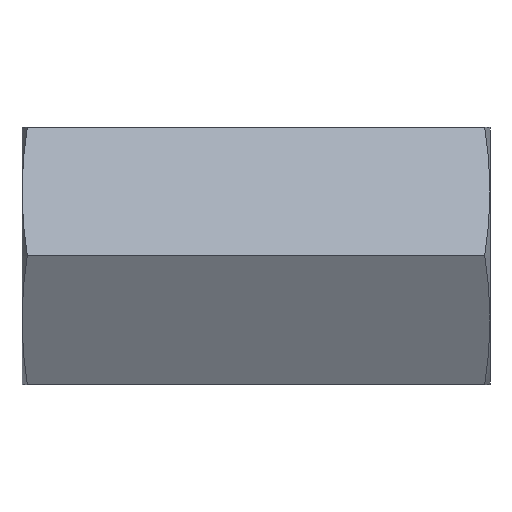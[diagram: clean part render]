
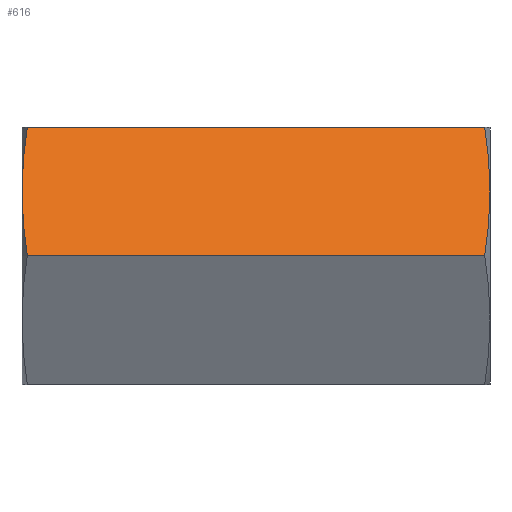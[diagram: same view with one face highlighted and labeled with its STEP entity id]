
A CAD part, top view. The second image highlights one B-rep face of the part: STEP entity #616.
In plain terms, the highlighted planar face has unit normal (0, 0.5, 0.866).
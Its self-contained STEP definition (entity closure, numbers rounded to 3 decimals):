
#616 = ADVANCED_FACE( '', ( #1343 ), #1344, .F. );
#1343 = FACE_OUTER_BOUND( '', #12328, .T. );
#1344 = PLANE( '', #12329 );
#12328 = EDGE_LOOP( '', ( #20280, #20281, #20282, #20283, #20284, #20285, #20286, #20287, #20288, #20289 ) );
#12329 = AXIS2_PLACEMENT_3D( '', #20290, #20291, #20292 );
#20280 = ORIENTED_EDGE( '', *, *, #21595, .F. );
#20281 = ORIENTED_EDGE( '', *, *, #21881, .T. );
#20282 = ORIENTED_EDGE( '', *, *, #21468, .T. );
#20283 = ORIENTED_EDGE( '', *, *, #21863, .T. );
#20284 = ORIENTED_EDGE( '', *, *, #21692, .T. );
#20285 = ORIENTED_EDGE( '', *, *, #21821, .T. );
#20286 = ORIENTED_EDGE( '', *, *, #21882, .F. );
#20287 = ORIENTED_EDGE( '', *, *, #21883, .F. );
#20288 = ORIENTED_EDGE( '', *, *, #21624, .F. );
#20289 = ORIENTED_EDGE( '', *, *, #21866, .F. );
#20290 = CARTESIAN_POINT( '', ( 74.955, 20.638, 11.915 ) );
#20291 = DIRECTION( '', ( 0., -0.5, -0.866 ) );
#20292 = DIRECTION( '', ( 0., 0.866, -0.5 ) );
#21468 = EDGE_CURVE( '', #22615, #22612, #22616, .T. );
#21595 = EDGE_CURVE( '', #22806, #22808, #22809, .T. );
#21624 = EDGE_CURVE( '', #22849, #22850, #22851, .T. );
#21692 = EDGE_CURVE( '', #22956, #22957, #22958, .T. );
#21821 = EDGE_CURVE( '', #22957, #23135, #23136, .T. );
#21863 = EDGE_CURVE( '', #22612, #22956, #23186, .T. );
#21866 = EDGE_CURVE( '', #22808, #22849, #23189, .T. );
#21881 = EDGE_CURVE( '', #22806, #22615, #23210, .T. );
#21882 = EDGE_CURVE( '', #22166, #23135, #23211, .T. );
#21883 = EDGE_CURVE( '', #22850, #22166, #23212, .T. );
#22166 = VERTEX_POINT( '', #27917 );
#22612 = VERTEX_POINT( '', #31193 );
#22615 = VERTEX_POINT( '', #31199 );
#22616 = B_SPLINE_CURVE_WITH_KNOTS( '', 3, ( #31200, #31201, #31202, #31203 ), .UNSPECIFIED., .F., .F., ( 4, 4 ), ( 0.011, 0.012 ), .UNSPECIFIED. );
#22806 = VERTEX_POINT( '', #34006 );
#22808 = VERTEX_POINT( '', #34018 );
#22809 = LINE( '', #34019, #34020 );
#22849 = VERTEX_POINT( '', #34136 );
#22850 = VERTEX_POINT( '', #34137 );
#22851 = B_SPLINE_CURVE_WITH_KNOTS( '', 3, ( #34138, #34139, #34140, #34141 ), .UNSPECIFIED., .F., .F., ( 4, 4 ), ( 0.011, 0.012 ), .UNSPECIFIED. );
#22956 = VERTEX_POINT( '', #38755 );
#22957 = VERTEX_POINT( '', #38756 );
#22958 = B_SPLINE_CURVE_WITH_KNOTS( '', 3, ( #38757, #38758, #38759, #38760, #38761, #38762, #38763, #38764, #38765, #38766, #38767 ), .UNSPECIFIED., .F., .F., ( 4, 1, 1, 1, 2, 2, 4 ), ( 0.013, 0.014, 0.016, 0.017, 0.018, 0.021, 0.024 ), .UNSPECIFIED. );
#23135 = VERTEX_POINT( '', #39173 );
#23136 = LINE( '', #39174, #39175 );
#23186 = B_SPLINE_CURVE_WITH_KNOTS( '', 3, ( #41444, #41445, #41446, #41447 ), .UNSPECIFIED., .F., .F., ( 4, 4 ), ( 0.012, 0.013 ), .UNSPECIFIED. );
#23189 = B_SPLINE_CURVE_WITH_KNOTS( '', 3, ( #41450, #41451, #41452, #41453, #41454, #41455, #41456, #41457, #41458, #41459, #41460 ), .UNSPECIFIED., .F., .F., ( 4, 2, 2, 1, 1, 1, 4 ), ( 0., 0.003, 0.005, 0.007, 0.008, 0.009, 0.011 ), .UNSPECIFIED. );
#23210 = B_SPLINE_CURVE_WITH_KNOTS( '', 3, ( #41630, #41631, #41632, #41633, #41634, #41635, #41636, #41637, #41638, #41639, #41640 ), .UNSPECIFIED., .F., .F., ( 4, 2, 2, 1, 1, 1, 4 ), ( 0., 0.003, 0.005, 0.007, 0.008, 0.009, 0.011 ), .UNSPECIFIED. );
#23211 = B_SPLINE_CURVE_WITH_KNOTS( '', 3, ( #41641, #41642, #41643, #41644, #41645, #41646, #41647, #41648, #41649, #41650, #41651 ), .UNSPECIFIED., .F., .F., ( 4, 1, 1, 1, 2, 2, 4 ), ( 0.013, 0.014, 0.016, 0.017, 0.018, 0.021, 0.024 ), .UNSPECIFIED. );
#23212 = B_SPLINE_CURVE_WITH_KNOTS( '', 3, ( #41652, #41653, #41654, #41655 ), .UNSPECIFIED., .F., .F., ( 4, 4 ), ( 0.012, 0.013 ), .UNSPECIFIED. );
#27917 = CARTESIAN_POINT( '', ( 0.009, 11.319, 17.295 ) );
#31193 = CARTESIAN_POINT( '', ( 74.955, 10.319, 17.873 ) );
#31199 = CARTESIAN_POINT( '', ( 74.947, 9.318, 18.45 ) );
#31200 = CARTESIAN_POINT( '', ( 74.947, 9.318, 18.45 ) );
#31201 = CARTESIAN_POINT( '', ( 74.953, 9.652, 18.258 ) );
#31202 = CARTESIAN_POINT( '', ( 74.955, 9.985, 18.065 ) );
#31203 = CARTESIAN_POINT( '', ( 74.955, 10.319, 17.873 ) );
#34006 = CARTESIAN_POINT( '', ( 74.1, 0., 23.83 ) );
#34018 = CARTESIAN_POINT( '', ( 0.855, 0., 23.83 ) );
#34019 = CARTESIAN_POINT( '', ( 74.955, 0., 23.83 ) );
#34020 = VECTOR( '', #44841, 1000. );
#34136 = CARTESIAN_POINT( '', ( 0.009, 9.318, 18.45 ) );
#34137 = CARTESIAN_POINT( '', ( 0., 10.319, 17.873 ) );
#34138 = CARTESIAN_POINT( '', ( 0.009, 9.318, 18.45 ) );
#34139 = CARTESIAN_POINT( '', ( 0.003, 9.652, 18.258 ) );
#34140 = CARTESIAN_POINT( '', ( 0., 9.985, 18.065 ) );
#34141 = CARTESIAN_POINT( '', ( 0., 10.319, 17.873 ) );
#38755 = CARTESIAN_POINT( '', ( 74.947, 11.319, 17.295 ) );
#38756 = CARTESIAN_POINT( '', ( 74.1, 20.638, 11.915 ) );
#38757 = CARTESIAN_POINT( '', ( 74.947, 11.319, 17.295 ) );
#38758 = CARTESIAN_POINT( '', ( 74.94, 11.707, 17.071 ) );
#38759 = CARTESIAN_POINT( '', ( 74.919, 12.484, 16.623 ) );
#38760 = CARTESIAN_POINT( '', ( 74.864, 13.649, 15.95 ) );
#38761 = CARTESIAN_POINT( '', ( 74.787, 14.813, 15.278 ) );
#38762 = CARTESIAN_POINT( '', ( 74.721, 15.59, 14.829 ) );
#38763 = CARTESIAN_POINT( '', ( 74.612, 16.755, 14.157 ) );
#38764 = CARTESIAN_POINT( '', ( 74.526, 17.531, 13.708 ) );
#38765 = CARTESIAN_POINT( '', ( 74.33, 19.084, 12.812 ) );
#38766 = CARTESIAN_POINT( '', ( 74.22, 19.861, 12.363 ) );
#38767 = CARTESIAN_POINT( '', ( 74.1, 20.638, 11.915 ) );
#39173 = CARTESIAN_POINT( '', ( 0.855, 20.638, 11.915 ) );
#39174 = CARTESIAN_POINT( '', ( 74.955, 20.638, 11.915 ) );
#39175 = VECTOR( '', #44940, 1000. );
#41444 = CARTESIAN_POINT( '', ( 74.955, 10.319, 17.873 ) );
#41445 = CARTESIAN_POINT( '', ( 74.955, 10.652, 17.68 ) );
#41446 = CARTESIAN_POINT( '', ( 74.953, 10.986, 17.488 ) );
#41447 = CARTESIAN_POINT( '', ( 74.947, 11.319, 17.295 ) );
#41450 = CARTESIAN_POINT( '', ( 0.855, 0., 23.83 ) );
#41451 = CARTESIAN_POINT( '', ( 0.735, 0.777, 23.382 ) );
#41452 = CARTESIAN_POINT( '', ( 0.625, 1.553, 22.933 ) );
#41453 = CARTESIAN_POINT( '', ( 0.429, 3.106, 22.037 ) );
#41454 = CARTESIAN_POINT( '', ( 0.343, 3.883, 21.588 ) );
#41455 = CARTESIAN_POINT( '', ( 0.234, 5.047, 20.916 ) );
#41456 = CARTESIAN_POINT( '', ( 0.169, 5.824, 20.468 ) );
#41457 = CARTESIAN_POINT( '', ( 0.091, 6.989, 19.795 ) );
#41458 = CARTESIAN_POINT( '', ( 0.037, 8.154, 19.123 ) );
#41459 = CARTESIAN_POINT( '', ( 0.015, 8.93, 18.674 ) );
#41460 = CARTESIAN_POINT( '', ( 0.009, 9.318, 18.45 ) );
#41630 = CARTESIAN_POINT( '', ( 74.1, 0., 23.83 ) );
#41631 = CARTESIAN_POINT( '', ( 74.22, 0.777, 23.382 ) );
#41632 = CARTESIAN_POINT( '', ( 74.33, 1.553, 22.933 ) );
#41633 = CARTESIAN_POINT( '', ( 74.526, 3.106, 22.037 ) );
#41634 = CARTESIAN_POINT( '', ( 74.612, 3.883, 21.588 ) );
#41635 = CARTESIAN_POINT( '', ( 74.721, 5.047, 20.916 ) );
#41636 = CARTESIAN_POINT( '', ( 74.787, 5.824, 20.468 ) );
#41637 = CARTESIAN_POINT( '', ( 74.864, 6.989, 19.795 ) );
#41638 = CARTESIAN_POINT( '', ( 74.919, 8.154, 19.123 ) );
#41639 = CARTESIAN_POINT( '', ( 74.94, 8.93, 18.674 ) );
#41640 = CARTESIAN_POINT( '', ( 74.947, 9.318, 18.45 ) );
#41641 = CARTESIAN_POINT( '', ( 0.009, 11.319, 17.295 ) );
#41642 = CARTESIAN_POINT( '', ( 0.015, 11.707, 17.071 ) );
#41643 = CARTESIAN_POINT( '', ( 0.037, 12.484, 16.623 ) );
#41644 = CARTESIAN_POINT( '', ( 0.091, 13.649, 15.95 ) );
#41645 = CARTESIAN_POINT( '', ( 0.169, 14.813, 15.278 ) );
#41646 = CARTESIAN_POINT( '', ( 0.234, 15.59, 14.829 ) );
#41647 = CARTESIAN_POINT( '', ( 0.343, 16.755, 14.157 ) );
#41648 = CARTESIAN_POINT( '', ( 0.429, 17.531, 13.708 ) );
#41649 = CARTESIAN_POINT( '', ( 0.625, 19.084, 12.812 ) );
#41650 = CARTESIAN_POINT( '', ( 0.735, 19.861, 12.363 ) );
#41651 = CARTESIAN_POINT( '', ( 0.855, 20.638, 11.915 ) );
#41652 = CARTESIAN_POINT( '', ( 0., 10.319, 17.873 ) );
#41653 = CARTESIAN_POINT( '', ( 0., 10.652, 17.68 ) );
#41654 = CARTESIAN_POINT( '', ( 0.003, 10.986, 17.488 ) );
#41655 = CARTESIAN_POINT( '', ( 0.009, 11.319, 17.295 ) );
#44841 = DIRECTION( '', ( -1., 0., 0. ) );
#44940 = DIRECTION( '', ( -1., 0., 0. ) );
